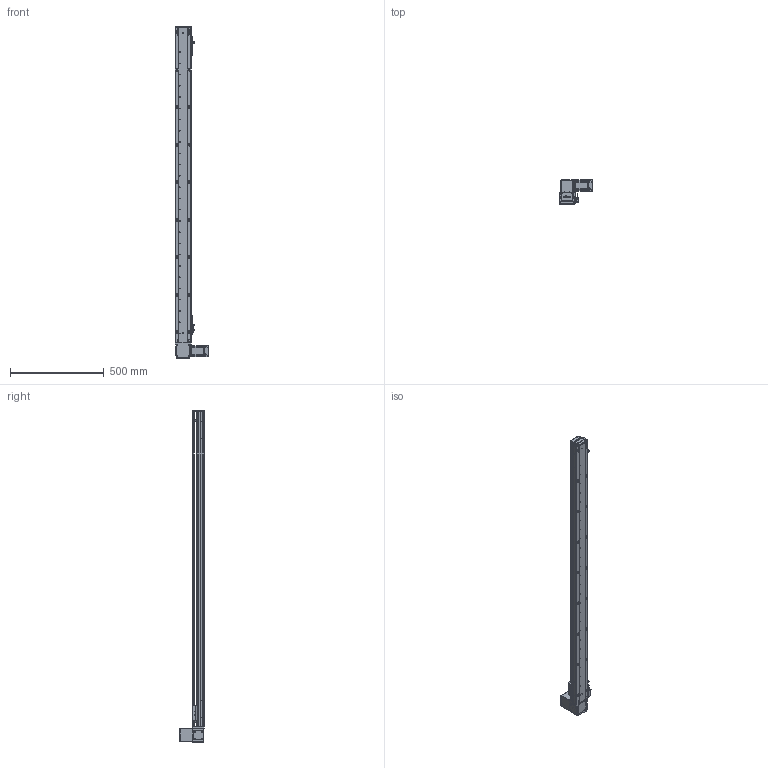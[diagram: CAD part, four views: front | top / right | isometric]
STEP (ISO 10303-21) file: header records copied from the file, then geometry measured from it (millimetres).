
FILE_DESCRIPTION (( 'STEP AP203' ), '1' );
FILE_NAME ('RY80-T-300-UR.SLDASM_1500.step', '2021-03-01T02:27:27', ( '盈信电脑' ), ( '东莞市道滘镇水果街19号' ), 'SwSTEP 2.0', 'SolidWorks 2012', '' );
FILE_SCHEMA (( 'CONFIG_CONTROL_DESIGN' ));
Length unit declared in the file: millimetre
Products named in the file (20): RY80-T萇儂假蚾啣; RY80-T肮祭謫奻殏俋欶; RY80-T-M4蹟翐2; RY80-T-300-UR.SLDASM_1500; RY80-T翋肮祭謫裔啣; RY80-T-上下折同步轮盖板; 1; RY100-T粣創揤踡裔; RY80-T粣創揤踡輸; RY80-T肮祭湍揤輸2; 滅袉蝶18-10; RY80俋离覜茼え; RY80-T肮祭湍揤輸1; RY80-T-翋肮祭謫釱; RY80-T-300-UR倰第奻裔啣_1500; 672嫖萇羲壽假蚾釱; 覜茼ん672; RY80-T綴裔啣; RY80-T肮祭謫臏賑輸; RY80-T-300-UR倰第菁釱_1500
Assembly tree (23 placements, depth 2):
  RY80-T-300-UR.SLDASM_1500
    RY80-T-300-UR倰第菁釱_1500
    RY80-T肮祭謫臏賑輸
    RY80-T-300-UR倰第奻裔啣_1500
    RY80-T綴裔啣
    672嫖萇羲壽假蚾釱  x2
    覜茼ん672  x3
    RY80俋离覜茼え
    RY80-T-翋肮祭謫釱
    RY80-T肮祭湍揤輸1
    RY80-T肮祭湍揤輸2
    RY80-T粣創揤踡輸
    滅袉蝶18-10  x2
    RY100-T粣創揤踡裔
    RY80-T翋肮祭謫裔啣
    RY80-T-上下折同步轮盖板
    1
    RY80-T肮祭謫奻殏俋欶
    RY80-T-M4蹟翐2
    RY80-T萇儂假蚾啣
Bounding box: 180 x 130.5 x 1770 mm (x, y, z)
Volume: 2839286.5 mm3; surface area: 1205653.4 mm2
Topology: 23 solids, 23 shells, 2575 faces, 7119 edges, 4628 vertices
Faces by surface type: plane 1355, cylinder 1022, cone 142, bspline 56
Entity records: 83020 total; most frequent: CARTESIAN_POINT 20420, ORIENTED_EDGE 12882, DIRECTION 12082, EDGE_CURVE 6441, VERTEX_POINT 4232, AXIS2_PLACEMENT_3D 4098, LINE 3886, VECTOR 3886
